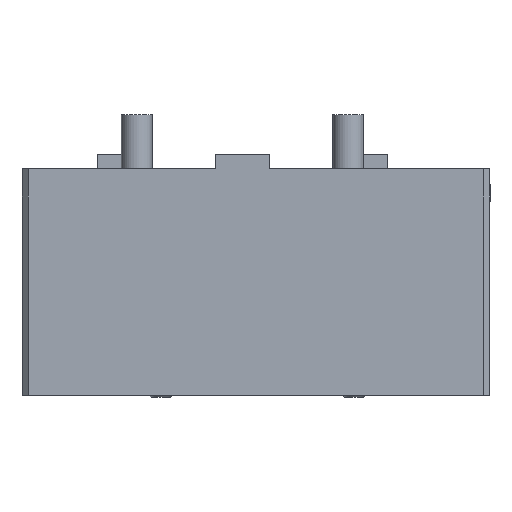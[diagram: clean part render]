
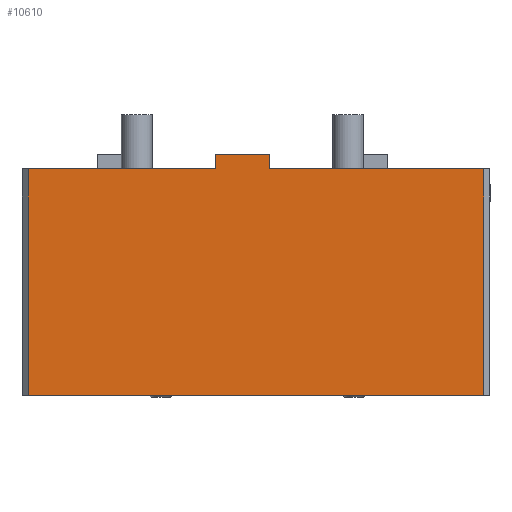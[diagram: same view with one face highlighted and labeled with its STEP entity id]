
A CAD part, front view. The second image highlights one B-rep face of the part: STEP entity #10610.
In plain terms, the highlighted planar face has unit normal (0, -1, 0).
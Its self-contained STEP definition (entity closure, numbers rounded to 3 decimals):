
#4932=ORIENTED_EDGE('',*,*,#6832,.T.);
#4933=ORIENTED_EDGE('',*,*,#6835,.F.);
#4934=ORIENTED_EDGE('',*,*,#6836,.F.);
#4935=ORIENTED_EDGE('',*,*,#6838,.T.);
#4936=ORIENTED_EDGE('',*,*,#6839,.F.);
#4937=ORIENTED_EDGE('',*,*,#6840,.T.);
#4938=ORIENTED_EDGE('',*,*,#6841,.T.);
#4939=ORIENTED_EDGE('',*,*,#6842,.T.);
#5859=VECTOR('',#7941,1.);
#5862=VECTOR('',#7946,1.);
#5863=VECTOR('',#7949,1.);
#5865=VECTOR('',#7953,1.);
#5866=VECTOR('',#7954,1.);
#5867=VECTOR('',#7955,1.);
#5868=VECTOR('',#7956,1.);
#5869=VECTOR('',#7957,1.);
#6181=LINE('',#9030,#5859);
#6184=LINE('',#9035,#5862);
#6185=LINE('',#9038,#5863);
#6187=LINE('',#9042,#5865);
#6188=LINE('',#9044,#5866);
#6189=LINE('',#9046,#5867);
#6190=LINE('',#9048,#5868);
#6191=LINE('',#9049,#5869);
#6502=VERTEX_POINT('',#9027);
#6503=VERTEX_POINT('',#9029);
#6504=VERTEX_POINT('',#9033);
#6505=VERTEX_POINT('',#9037);
#6506=VERTEX_POINT('',#9041);
#6507=VERTEX_POINT('',#9043);
#6508=VERTEX_POINT('',#9045);
#6509=VERTEX_POINT('',#9047);
#6832=EDGE_CURVE('',#6503,#6502,#6181,.T.);
#6835=EDGE_CURVE('',#6504,#6502,#6184,.T.);
#6836=EDGE_CURVE('',#6505,#6504,#6185,.T.);
#6838=EDGE_CURVE('',#6505,#6506,#6187,.T.);
#6839=EDGE_CURVE('',#6507,#6506,#6188,.T.);
#6840=EDGE_CURVE('',#6507,#6508,#6189,.T.);
#6841=EDGE_CURVE('',#6508,#6509,#6190,.T.);
#6842=EDGE_CURVE('',#6509,#6503,#6191,.T.);
#7297=EDGE_LOOP('',(#4932,#4933,#4934,#4935,#4936,#4937,#4938,#4939));
#7613=FACE_BOUND('',#7297,.T.);
#7941=DIRECTION('',(0.,0.,4.75));
#7946=DIRECTION('',(18.,0.,0.));
#7949=DIRECTION('',(0.,0.,4.75));
#7951=DIRECTION('',(0.,-1.,0.));
#7952=DIRECTION('',(-1.,0.,0.));
#7953=DIRECTION('',(-62.,0.,0.));
#7954=DIRECTION('',(0.,0.,75.));
#7955=DIRECTION('',(151.,0.,0.));
#7956=DIRECTION('',(0.,0.,75.));
#7957=DIRECTION('',(-71.,0.,0.));
#9027=CARTESIAN_POINT('',(9.,-48.,4.75));
#9029=CARTESIAN_POINT('',(9.,-48.,0.));
#9030=CARTESIAN_POINT('',(9.,-48.,0.));
#9033=CARTESIAN_POINT('',(-9.,-48.,4.75));
#9035=CARTESIAN_POINT('',(-9.,-48.,4.75));
#9037=CARTESIAN_POINT('',(-9.,-48.,0.));
#9038=CARTESIAN_POINT('',(-9.,-48.,0.));
#9040=CARTESIAN_POINT('',(9.,-48.,-5.));
#9041=CARTESIAN_POINT('',(-71.,-48.,0.));
#9042=CARTESIAN_POINT('',(-9.,-48.,0.));
#9043=CARTESIAN_POINT('',(-71.,-48.,-75.));
#9044=CARTESIAN_POINT('',(-71.,-48.,-75.));
#9045=CARTESIAN_POINT('',(80.,-48.,-75.));
#9046=CARTESIAN_POINT('',(-71.,-48.,-75.));
#9047=CARTESIAN_POINT('',(80.,-48.,0.));
#9048=CARTESIAN_POINT('',(80.,-48.,-75.));
#9049=CARTESIAN_POINT('',(80.,-48.,0.));
#10046=AXIS2_PLACEMENT_3D('',#9040,#7951,#7952);
#10426=PLANE('',#10046);
#10610=ADVANCED_FACE('',(#7613),#10426,.T.);
